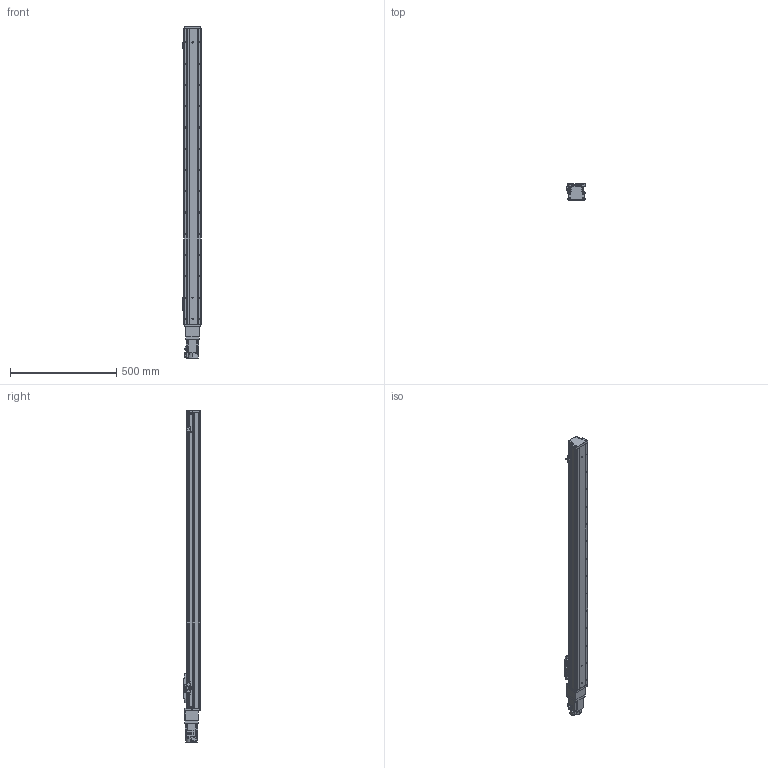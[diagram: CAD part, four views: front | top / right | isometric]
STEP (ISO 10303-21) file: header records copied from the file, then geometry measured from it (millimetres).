
FILE_DESCRIPTION (( 'STEP AP203' ), '1' );
FILE_NAME ('GTH8-1200-BC-M20-C4.step', '2023-08-28T00:53:39', ( '微软用户' ), ( '微软中国' ), 'SwSTEP 2.0', 'SolidWorks 2020', '' );
FILE_SCHEMA (( 'CONFIG_CONTROL_DESIGN' ));
Length unit declared in the file: millimetre
Products named in the file (19): GTH80-022; BTH-M3X5X6; GTH80-001_1200; GBT 70.1-M3℅6; CTHA86-006-1_CTHA86-006-2; GTH80-003; GBT 70.1-M4×16; CTHA86-013; GTH80-004; GTH80-028; CTHA86-027; GTH80-006; GTH50-024; 三菱伺服电机[HG-KN23J-S100]; GTH80-013; GTH50-023; GTH8-1200-BC-M20-C4; GBT 70.3-M3℅6; GBT96.1-2002 3×0.8
Assembly tree (60 placements, depth 2):
  GTH8-1200-BC-M20-C4
    GTH80-001_1200
    GTH80-003
    GTH80-004
    GTH80-006
    GTH80-013
    GBT 70.3-M3℅6  x6
    GTH80-022
    GBT 70.1-M3℅6  x14
    GBT 70.1-M4×16  x8
    GTH80-028  x2
    GTH50-024  x3
    GTH50-023  x3
    GBT96.1-2002 3×0.8  x6
    BTH-M3X5X6  x8
    CTHA86-006-1_CTHA86-006-2
    CTHA86-013
    CTHA86-027
    三菱伺服电机[HG-KN23J-S100]
Bounding box: 86.9 x 78 x 1561 mm (x, y, z)
Volume: 6754330.9 mm3; surface area: 643051.4 mm2
Topology: 62 solids, 62 shells, 2203 faces, 5114 edges, 3125 vertices
Faces by surface type: plane 1137, cylinder 617, cone 285, torus 154, sphere 8, bspline 2
Entity records: 40237 total; most frequent: CARTESIAN_POINT 8513, DIRECTION 6013, ORIENTED_EDGE 5818, EDGE_CURVE 2909, AXIS2_PLACEMENT_3D 2077, VECTOR 1859, LINE 1859, VERTEX_POINT 1838
